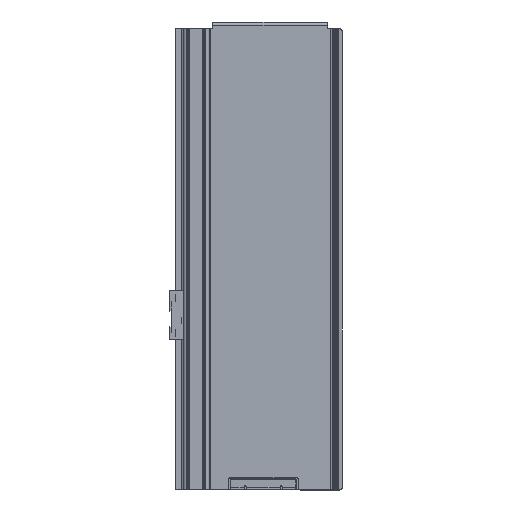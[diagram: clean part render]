
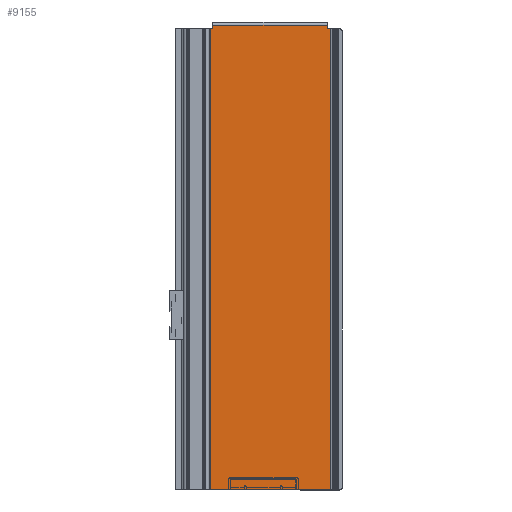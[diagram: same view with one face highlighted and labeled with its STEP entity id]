
A CAD part, left-side view. The second image highlights one B-rep face of the part: STEP entity #9155.
In plain terms, the highlighted planar face has unit normal (-1, 0, 0) as drawn and (1, 0, 0) by its records, which use the part's own axes.
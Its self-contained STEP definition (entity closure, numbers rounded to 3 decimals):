
#271=PLANE('',#9974);
#758=LINE('',#14776,#1502);
#763=LINE('',#14791,#1507);
#768=LINE('',#14800,#1512);
#769=LINE('',#14803,#1513);
#806=LINE('',#14928,#1550);
#824=LINE('',#14976,#1568);
#825=LINE('',#14979,#1569);
#826=LINE('',#14980,#1570);
#1502=VECTOR('',#11856,10.);
#1507=VECTOR('',#11871,10.);
#1512=VECTOR('',#11878,10.);
#1513=VECTOR('',#11881,10.);
#1550=VECTOR('',#11988,10.);
#1568=VECTOR('',#12042,10.);
#1569=VECTOR('',#12045,10.);
#1570=VECTOR('',#12046,10.);
#2243=FACE_OUTER_BOUND('',#2805,.T.);
#2805=EDGE_LOOP('',(#7184,#7185,#7186,#7187,#7188,#7189,#7190,#7191));
#3986=VERTEX_POINT('',#14772);
#3987=VERTEX_POINT('',#14774);
#3992=VERTEX_POINT('',#14790);
#3995=VERTEX_POINT('',#14798);
#3996=VERTEX_POINT('',#14802);
#4049=VERTEX_POINT('',#14926);
#4061=VERTEX_POINT('',#14974);
#4062=VERTEX_POINT('',#14978);
#5063=EDGE_CURVE('',#3986,#3987,#758,.T.);
#5070=EDGE_CURVE('',#3992,#3986,#763,.T.);
#5075=EDGE_CURVE('',#3987,#3995,#768,.T.);
#5076=EDGE_CURVE('',#3996,#3992,#769,.T.);
#5139=EDGE_CURVE('',#3995,#4049,#806,.T.);
#5163=EDGE_CURVE('',#4061,#4049,#824,.T.);
#5164=EDGE_CURVE('',#4062,#4061,#825,.T.);
#5165=EDGE_CURVE('',#4062,#3996,#826,.T.);
#7184=ORIENTED_EDGE('',*,*,#5164,.F.);
#7185=ORIENTED_EDGE('',*,*,#5165,.T.);
#7186=ORIENTED_EDGE('',*,*,#5076,.T.);
#7187=ORIENTED_EDGE('',*,*,#5070,.T.);
#7188=ORIENTED_EDGE('',*,*,#5063,.T.);
#7189=ORIENTED_EDGE('',*,*,#5075,.T.);
#7190=ORIENTED_EDGE('',*,*,#5139,.T.);
#7191=ORIENTED_EDGE('',*,*,#5163,.F.);
#9155=ADVANCED_FACE('',(#2243),#271,.F.);
#9974=AXIS2_PLACEMENT_3D('',#14977,#12043,#12044);
#11856=DIRECTION('',(0.,-1.,0.));
#11871=DIRECTION('',(0.,0.,1.));
#11878=DIRECTION('',(0.,0.,-1.));
#11881=DIRECTION('',(0.,-1.,0.));
#11988=DIRECTION('',(0.,-1.,0.));
#12042=DIRECTION('',(0.,0.,1.));
#12043=DIRECTION('center_axis',(-1.,0.,0.));
#12044=DIRECTION('ref_axis',(0.,-1.,0.));
#12045=DIRECTION('',(0.,-1.,0.));
#12046=DIRECTION('',(0.,0.,1.));
#14772=CARTESIAN_POINT('',(4.9,113.,345.6));
#14774=CARTESIAN_POINT('',(4.9,27.5,345.6));
#14776=CARTESIAN_POINT('',(4.9,113.,345.6));
#14790=CARTESIAN_POINT('',(4.9,113.,343.));
#14791=CARTESIAN_POINT('',(4.9,113.,343.));
#14798=CARTESIAN_POINT('',(4.9,27.5,343.));
#14800=CARTESIAN_POINT('',(4.9,27.5,343.));
#14802=CARTESIAN_POINT('',(4.9,115.342,343.));
#14803=CARTESIAN_POINT('',(4.9,115.342,343.));
#14926=CARTESIAN_POINT('',(4.9,25.9,343.));
#14928=CARTESIAN_POINT('',(4.9,115.342,343.));
#14974=CARTESIAN_POINT('',(4.9,25.9,0.));
#14976=CARTESIAN_POINT('',(4.9,25.9,0.));
#14977=CARTESIAN_POINT('Origin',(4.9,115.342,0.));
#14978=CARTESIAN_POINT('',(4.9,115.342,0.));
#14979=CARTESIAN_POINT('',(4.9,115.342,0.));
#14980=CARTESIAN_POINT('',(4.9,115.342,0.));
